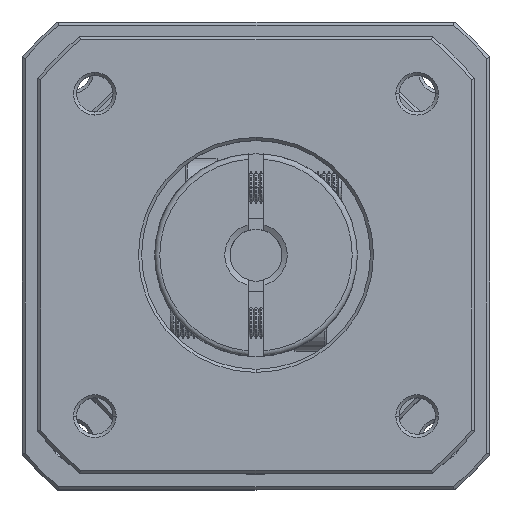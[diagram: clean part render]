
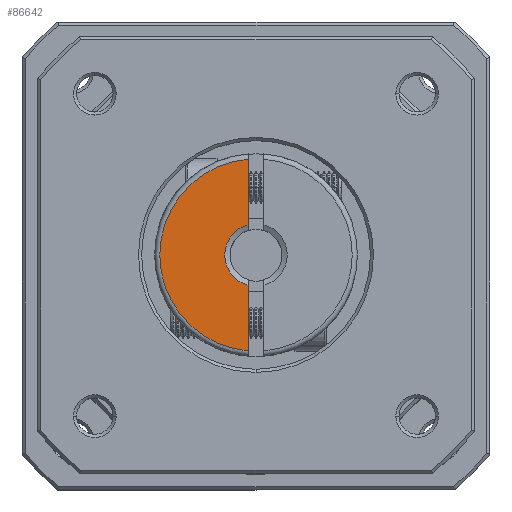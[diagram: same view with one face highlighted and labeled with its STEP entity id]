
A CAD part, top view. The second image highlights one B-rep face of the part: STEP entity #86642.
In plain terms, the highlighted planar face has unit normal (0, 0, 1).
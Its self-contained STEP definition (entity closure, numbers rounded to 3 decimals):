
#9011 = DIRECTION ( 'NONE',  ( 0., 1., 0. ) ) ;
#10803 = CARTESIAN_POINT ( 'NONE',  ( -63.908, 9.515, 47.126 ) ) ;
#20217 = CARTESIAN_POINT ( 'NONE',  ( -63.158, 6.61, 47.126 ) ) ;
#22291 = DIRECTION ( 'NONE',  ( 0., -1., 0. ) ) ;
#34051 = ORIENTED_EDGE ( 'NONE', *, *, #40109, .T. ) ;
#35992 = LINE ( 'NONE', #61656, #52701 ) ;
#36841 = EDGE_CURVE ( 'NONE', #52464, #62520, #110680, .T. ) ;
#38469 = AXIS2_PLACEMENT_3D ( 'NONE', #40877, #67507, #22291 ) ;
#40001 = ORIENTED_EDGE ( 'NONE', *, *, #63161, .F. ) ;
#40109 = EDGE_CURVE ( 'NONE', #80354, #62107, #35992, .T. ) ;
#40877 = CARTESIAN_POINT ( 'NONE',  ( -63.158, 6.61, 47.126 ) ) ;
#43361 = CIRCLE ( 'NONE', #47864, 9.25 ) ;
#46106 = EDGE_LOOP ( 'NONE', ( #34051, #40001, #73241, #97279 ) ) ;
#47116 = DIRECTION ( 'NONE',  ( 0., 0., -1. ) ) ;
#47864 = AXIS2_PLACEMENT_3D ( 'NONE', #100061, #47116, #72967 ) ;
#49830 = VECTOR ( 'NONE', #74450, 1000. ) ;
#52464 = VERTEX_POINT ( 'NONE', #76425 ) ;
#52701 = VECTOR ( 'NONE', #9011, 1000. ) ;
#55360 = EDGE_CURVE ( 'NONE', #80354, #52464, #43361, .T. ) ;
#56173 = AXIS2_PLACEMENT_3D ( 'NONE', #20217, #99515, #91407 ) ;
#61656 = CARTESIAN_POINT ( 'NONE',  ( -63.908, -3.39, 47.126 ) ) ;
#62107 = VERTEX_POINT ( 'NONE', #111867 ) ;
#62520 = VERTEX_POINT ( 'NONE', #10803 ) ;
#63161 = EDGE_CURVE ( 'NONE', #62520, #62107, #74005, .T. ) ;
#67507 = DIRECTION ( 'NONE',  ( 0., 0., -1. ) ) ;
#71050 = CARTESIAN_POINT ( 'NONE',  ( -63.908, 6.61, 47.126 ) ) ;
#72967 = DIRECTION ( 'NONE',  ( 0., -1., 0. ) ) ;
#73241 = ORIENTED_EDGE ( 'NONE', *, *, #36841, .F. ) ;
#74005 = CIRCLE ( 'NONE', #56173, 3. ) ;
#74450 = DIRECTION ( 'NONE',  ( 0., -1., 0. ) ) ;
#76425 = CARTESIAN_POINT ( 'NONE',  ( -63.908, 15.83, 47.126 ) ) ;
#80354 = VERTEX_POINT ( 'NONE', #105850 ) ;
#86642 = ADVANCED_FACE ( 'NONE', ( #93176 ), #110841, .F. ) ;
#91407 = DIRECTION ( 'NONE',  ( 0., 1., 0. ) ) ;
#93176 = FACE_OUTER_BOUND ( 'NONE', #46106, .T. ) ;
#97279 = ORIENTED_EDGE ( 'NONE', *, *, #55360, .F. ) ;
#99515 = DIRECTION ( 'NONE',  ( 0., 0., 1. ) ) ;
#100061 = CARTESIAN_POINT ( 'NONE',  ( -63.158, 6.61, 47.126 ) ) ;
#105850 = CARTESIAN_POINT ( 'NONE',  ( -63.908, -2.609, 47.126 ) ) ;
#110680 = LINE ( 'NONE', #71050, #49830 ) ;
#110841 = PLANE ( 'NONE',  #38469 ) ;
#111867 = CARTESIAN_POINT ( 'NONE',  ( -63.908, 3.706, 47.126 ) ) ;
